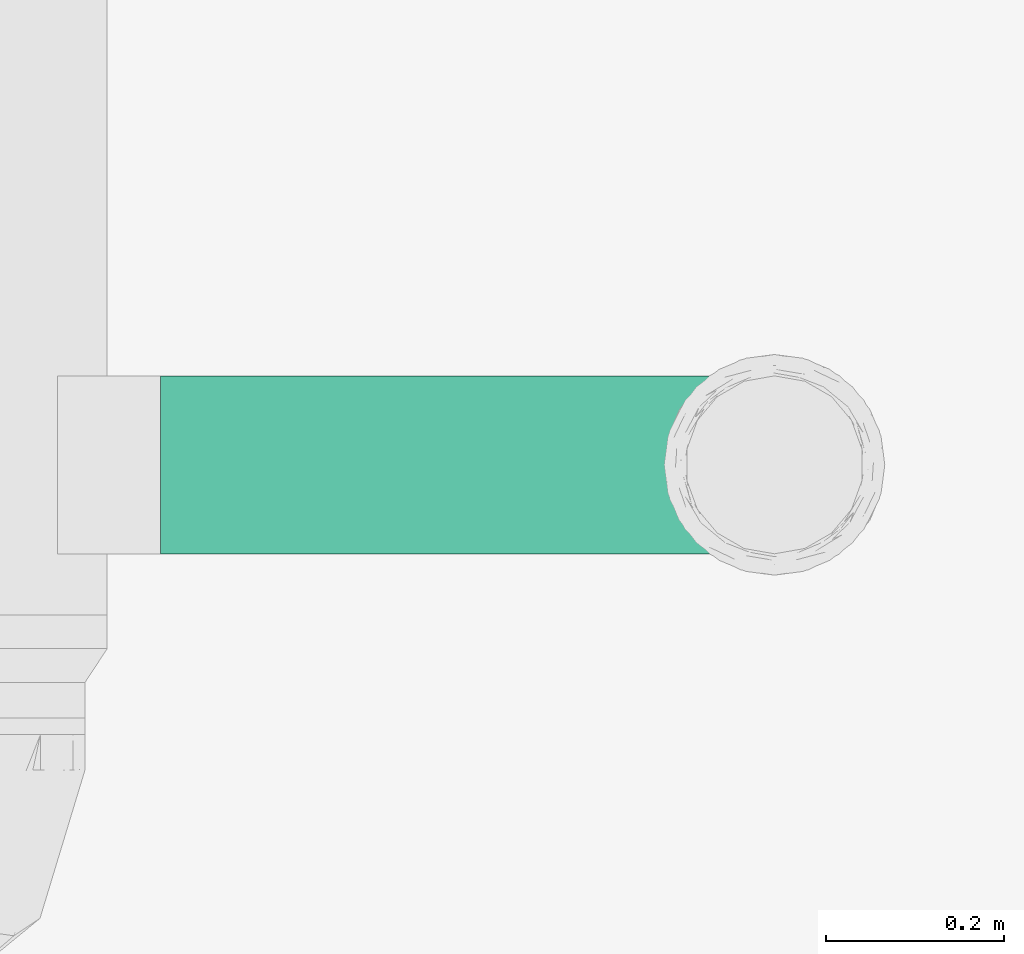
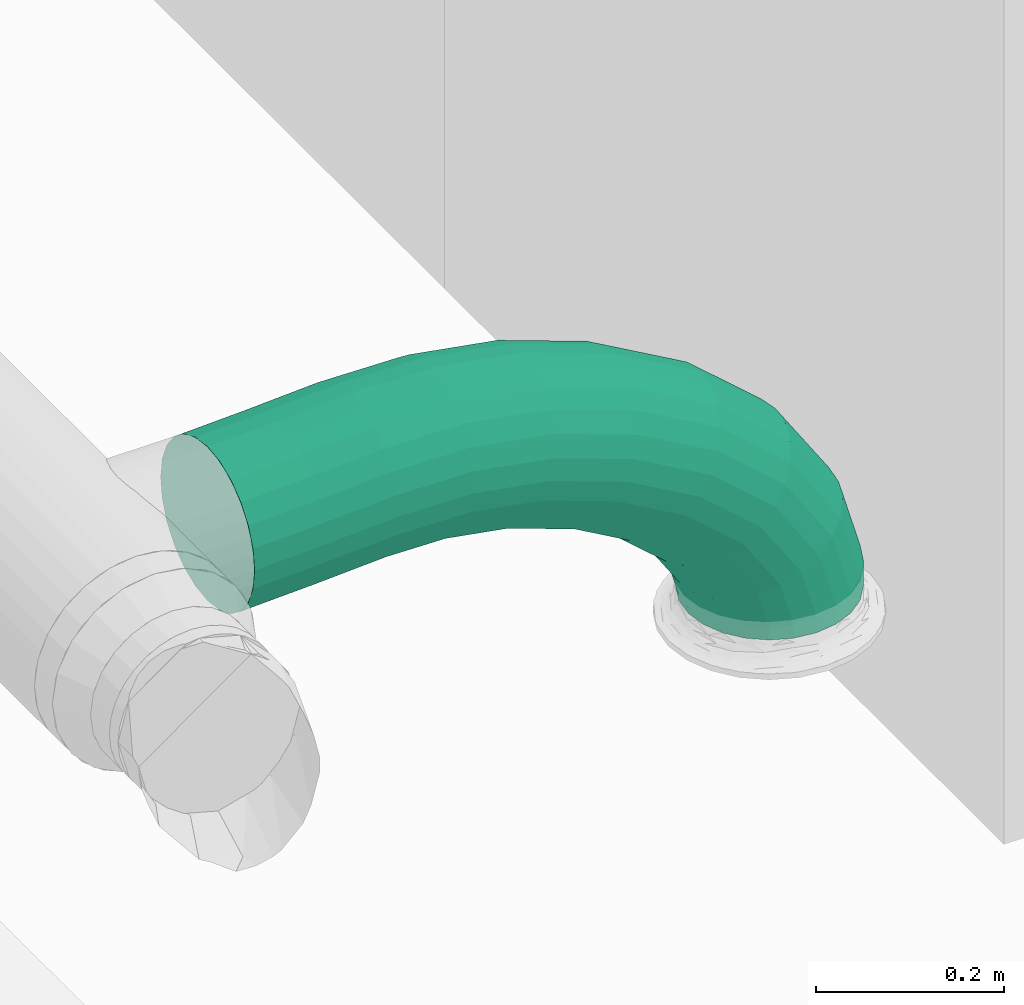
# One storey, part 18 of 31: 1 flow segment.
"""IFC2X3 building model written with IfcOpenShell, lengths in millimetres."""

from ifc_helpers import new_model, entity, si_unit, converted_unit, derived_unit, direction, frame, origin, place, context, subcontext, project, spatial, faceted_brep, type_object, element, save


model = new_model("IFC2X3")

# Units and contexts
model_context = context("Model", 3, precision=0.01, world=origin(), true_north=direction((6.123031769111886e-17, 1.0)))
body_context = subcontext(model_context, "Body", "Model", "MODEL_VIEW")
ifc_project = project(units=[si_unit("LENGTHUNIT", "METRE", prefix="MILLI"), si_unit("AREAUNIT", "SQUARE_METRE"), si_unit("VOLUMEUNIT", "CUBIC_METRE"), converted_unit("PLANEANGLEUNIT", "DEGREE", entity("IfcRatioMeasure", 0.017453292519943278), si_unit("PLANEANGLEUNIT", "RADIAN"), dimensions=[0, 0, 0, 0, 0, 0, 0]), si_unit("MASSUNIT", "GRAM", prefix="KILO"), derived_unit("MASSDENSITYUNIT", [(si_unit("MASSUNIT", "GRAM", prefix="KILO"), 1), (si_unit("LENGTHUNIT", "METRE"), -3)]), derived_unit("MOMENTOFINERTIAUNIT", [(si_unit("LENGTHUNIT", "METRE"), 4)]), si_unit("TIMEUNIT", "SECOND"), si_unit("FREQUENCYUNIT", "HERTZ"), si_unit("THERMODYNAMICTEMPERATUREUNIT", "DEGREE_CELSIUS"), derived_unit("THERMALTRANSMITTANCEUNIT", [(si_unit("MASSUNIT", "GRAM", prefix="KILO"), 1), (si_unit("THERMODYNAMICTEMPERATUREUNIT", "KELVIN"), -1), (si_unit("TIMEUNIT", "SECOND"), -3)]), derived_unit("VOLUMETRICFLOWRATEUNIT", [(si_unit("LENGTHUNIT", "METRE"), 3), (si_unit("TIMEUNIT", "SECOND"), -1)]), derived_unit("MASSFLOWRATEUNIT", [(si_unit("MASSUNIT", "GRAM", prefix="KILO"), 1), (si_unit("TIMEUNIT", "SECOND"), -1)]), derived_unit("ROTATIONALFREQUENCYUNIT", [(si_unit("TIMEUNIT", "SECOND"), -1)]), si_unit("ELECTRICCURRENTUNIT", "AMPERE"), si_unit("ELECTRICVOLTAGEUNIT", "VOLT"), si_unit("POWERUNIT", "WATT"), si_unit("FORCEUNIT", "NEWTON", prefix="KILO"), si_unit("ILLUMINANCEUNIT", "LUX"), si_unit("LUMINOUSFLUXUNIT", "LUMEN"), si_unit("LUMINOUSINTENSITYUNIT", "CANDELA"), derived_unit("USERDEFINED", [(si_unit("MASSUNIT", "GRAM", prefix="KILO"), -1), (si_unit("LENGTHUNIT", "METRE"), -2), (si_unit("TIMEUNIT", "SECOND"), 3), (si_unit("LUMINOUSFLUXUNIT", "LUMEN"), 1)]), derived_unit("SOUNDPOWERUNIT", [(si_unit("MASSUNIT", "GRAM", prefix="KILO"), 1), (si_unit("LENGTHUNIT", "METRE"), 2), (si_unit("TIMEUNIT", "SECOND"), -3)]), derived_unit("SOUNDPRESSUREUNIT", [(si_unit("MASSUNIT", "GRAM", prefix="KILO"), 1), (si_unit("LENGTHUNIT", "METRE"), -1), (si_unit("TIMEUNIT", "SECOND"), -2)]), derived_unit("LINEARVELOCITYUNIT", [(si_unit("LENGTHUNIT", "METRE"), 1), (si_unit("TIMEUNIT", "SECOND"), -1)]), si_unit("PRESSUREUNIT", "PASCAL"), derived_unit("USERDEFINED", [(si_unit("LENGTHUNIT", "METRE"), -2), (si_unit("MASSUNIT", "GRAM", prefix="KILO"), 1), (si_unit("TIMEUNIT", "SECOND"), -2)]), derived_unit("LINEARFORCEUNIT", [(si_unit("MASSUNIT", "GRAM", prefix="KILO"), 1), (si_unit("LENGTHUNIT", "METRE"), 1), (si_unit("TIMEUNIT", "SECOND"), -2), (si_unit("LENGTHUNIT", "METRE"), -1)]), derived_unit("PLANARFORCEUNIT", [(si_unit("MASSUNIT", "GRAM", prefix="KILO"), 1), (si_unit("LENGTHUNIT", "METRE"), 1), (si_unit("TIMEUNIT", "SECOND"), -2), (si_unit("LENGTHUNIT", "METRE"), -2)])], contexts=[model_context])

# Site, building, storey
site_placement = place(None, origin())
site = spatial("IfcSite", under=ifc_project, at=site_placement, Name="Default", CompositionType="ELEMENT")
building_placement = place(site_placement, origin())
building = spatial("IfcBuilding", under=site, at=building_placement, CompositionType="ELEMENT")
storey_placement = place(building_placement, frame((0.0, 0.0, 3880.0)))
storey = spatial("IfcBuildingStorey", under=building, at=storey_placement, Name="Niveau 1", CompositionType="ELEMENT", Elevation=3880.0)

# Flow segment
duct_segment_type = type_object("IfcDuctSegmentType", Name="Gaine flexible circulaire:Souple - Circulaire piquage Aldes", PredefinedType="FLEXIBLESEGMENT")
flow_segment_placement = place(storey_placement, frame((-2010.0, -22768.52175551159, 2827.5000000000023)))
element("IfcFlowSegment", 1, at=flow_segment_placement, inside=storey, type_object=duct_segment_type, Name="Gaine flexible circulaire:Souple - Circulaire piquage Aldes", ObjectType="Gaine flexible circulaire:Souple - Circulaire piquage Aldes", context=body_context, shape_type="Brep", body=[
    faceted_brep([(619.2893218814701, 30.884594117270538, 0.0), (603.3974596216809, 51.59527223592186, 0.0), (593.407417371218, 75.7133677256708, 0.0), (590.0, 101.59527223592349, 0.0), (593.4074173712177, 127.47717674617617, 0.0), (603.3974596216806, 151.5952722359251, 0.0), (619.2893218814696, 172.30595035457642, 0.0), (640.0, 188.1978126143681, 0.0), (664.1180954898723, 198.18785486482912, 0.0), (690.0, 201.5952722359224, 0.0), (715.8819045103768, 198.18785486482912, 0.0), (740.0, 188.1978126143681, 0.0), (760.7106781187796, 172.30595035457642, 0.0), (776.6025403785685, 151.5952722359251, 0.0), (786.5925826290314, 127.47717674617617, 0.0), (790.0, 101.59527223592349, 0.0), (786.5925826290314, 75.7133677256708, 0.0), (776.6025403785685, 51.59527223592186, 0.0), (760.7106781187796, 30.884594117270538, 0.0), (740.0, 14.992731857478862, 0.0), (715.8819045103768, 5.002689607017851, 0.0), (690.0, 1.5952722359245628, 0.0), (664.1180954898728, 5.002689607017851, 0.0), (640.0, 14.992731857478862, 0.0), (790.0, 101.59527223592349, 35.278796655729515), (786.5925826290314, 75.7133677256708, 34.79837086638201), (776.6025403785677, 51.59527223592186, 33.389833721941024), (760.7106781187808, 30.884594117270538, 31.149174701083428), (740.0, 14.992731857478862, 28.229091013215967), (715.8819045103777, 5.002689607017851, 24.828581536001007), (690.0, 1.5952722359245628, 21.179385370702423), (664.1180954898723, 5.002689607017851, 17.53018920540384), (640.0, 14.992731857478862, 14.12967972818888), (619.289321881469, 30.884594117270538, 11.209596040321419), (593.407417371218, 75.7133677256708, 7.560399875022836), (590.0, 101.59527223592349, 7.079974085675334), (603.3974596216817, 51.59527223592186, 8.968937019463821), (603.3974596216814, 151.5952722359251, 8.968937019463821), (619.2893218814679, 172.30595035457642, 11.209596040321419), (593.407417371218, 127.47717674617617, 7.560399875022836), (664.1180954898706, 198.18785486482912, 17.53018920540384), (690.0, 201.5952722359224, 21.179385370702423), (640.0, 188.1978126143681, 14.12967972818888), (715.8819045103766, 198.18785486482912, 24.828581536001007), (740.0, 188.1978126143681, 28.229091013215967), (760.71067811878, 172.30595035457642, 31.149174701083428), (776.6025403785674, 151.5952722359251, 33.389833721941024), (786.5925826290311, 127.47717674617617, 34.79837086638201), (0.0, 198.1878548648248, 296.61809548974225), (0.0, 188.19781261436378, 272.4999999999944), (0.0, 172.3059503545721, 251.7893218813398), (0.0, 151.5952722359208, 235.89745962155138), (0.0, 127.47717674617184, 225.90741737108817), (0.0, 101.59527223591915, 222.49999999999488), (0.0, 75.71336772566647, 225.90741737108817), (0.0, 51.59527223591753, 235.89745962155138), (0.0, 30.884594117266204, 251.7893218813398), (0.0, 14.992731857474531, 272.49999999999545), (0.0, 5.00268960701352, 296.6180954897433), (0.0, 1.5952722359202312, 322.4999999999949), (0.0, 5.00268960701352, 348.3819045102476), (0.0, 14.992731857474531, 372.49999999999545), (0.0, 30.884594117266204, 393.21067811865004), (0.0, 51.59527223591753, 409.10254037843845), (0.0, 75.71336772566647, 419.0925826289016), (0.0, 101.59527223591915, 422.4999999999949), (0.0, 127.47717674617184, 419.0925826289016), (0.0, 151.5952722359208, 409.10254037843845), (0.0, 172.3059503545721, 393.21067811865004), (0.0, 188.19781261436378, 372.49999999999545), (0.0, 198.1878548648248, 348.3819045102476), (0.0, 201.5952722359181, 322.4999999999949), (763.2769525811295, 101.59527223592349, 128.16143674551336), (760.1463399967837, 75.7133677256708, 126.71890663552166), (750.9678483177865, 51.59527223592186, 122.48962234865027), (736.3669765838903, 30.884594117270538, 115.76180261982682), (717.3387500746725, 14.992731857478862, 106.9939372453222), (695.1799109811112, 5.002689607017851, 96.7835417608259), (671.4005475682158, 1.5952722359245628, 85.82643774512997), (647.6211841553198, 5.002689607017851, 74.86933372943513), (625.4623450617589, 14.992731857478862, 64.65893824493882), (606.4341185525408, 30.884594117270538, 55.89107287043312), (591.8332468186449, 51.59527223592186, 49.16325314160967), (582.6547551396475, 75.7133677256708, 44.93396885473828), (579.5241425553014, 101.59527223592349, 43.49143874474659), (582.6547551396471, 127.47717674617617, 44.93396885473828), (591.8332468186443, 151.5952722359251, 49.16325314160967), (606.43411855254, 172.30595035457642, 55.89107287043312), (647.6211841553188, 198.18785486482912, 74.86933372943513), (671.4005475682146, 201.5952722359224, 85.82643774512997), (625.4623450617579, 188.1978126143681, 64.65893824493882), (695.1799109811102, 198.18785486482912, 96.7835417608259), (717.3387500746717, 188.1978126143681, 106.99393724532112), (736.3669765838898, 172.30595035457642, 115.76180261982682), (750.967848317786, 151.5952722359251, 122.48962234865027), (760.1463399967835, 127.47717674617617, 126.71890663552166), (697.1155955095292, 101.59527223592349, 228.39426994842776), (694.5257835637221, 75.7133677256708, 226.13244013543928), (686.9328391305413, 51.59527223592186, 219.5010906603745), (674.854208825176, 30.884594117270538, 208.95213703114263), (659.1130313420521, 14.992731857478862, 195.20447300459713), (640.7820419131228, 5.002689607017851, 179.1949791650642), (621.1104671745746, 1.5952722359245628, 162.0146760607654), (601.4388924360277, 5.002689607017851, 144.83437295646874), (583.1079030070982, 14.992731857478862, 128.82487911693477), (567.366725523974, 30.884594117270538, 115.07721509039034), (555.2880952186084, 51.59527223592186, 104.52826146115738), (547.6951507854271, 75.7133677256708, 97.89691198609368), (545.1053388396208, 101.59527223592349, 95.63508217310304), (547.6951507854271, 127.47717674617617, 97.89691198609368), (555.2880952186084, 151.5952722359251, 104.5282614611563), (567.3667255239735, 172.30595035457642, 115.07721509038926), (601.4388924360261, 198.18785486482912, 144.83437295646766), (621.1104671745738, 201.5952722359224, 162.01467606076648), (583.1079030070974, 188.1978126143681, 128.82487911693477), (640.7820419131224, 198.18785486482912, 179.1949791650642), (659.1130313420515, 188.1978126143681, 195.20447300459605), (674.8542088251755, 172.30595035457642, 208.95213703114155), (686.9328391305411, 151.5952722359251, 219.5010906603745), (694.5257835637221, 127.47717674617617, 226.1324401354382), (605.6289976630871, 101.59527223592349, 308.3797466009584), (603.6446260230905, 75.7133677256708, 305.58858863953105), (597.8267427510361, 51.59527223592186, 297.4053275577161), (588.5718269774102, 30.884594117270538, 284.3876390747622), (576.5105859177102, 14.992731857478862, 267.4226571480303), (562.4649732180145, 5.002689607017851, 247.66651725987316), (547.3921741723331, 1.5952722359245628, 226.46556769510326), (532.3193751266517, 5.002689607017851, 205.26461813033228), (518.2737624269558, 14.992731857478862, 185.50847824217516), (506.2125213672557, 30.884594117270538, 168.5434963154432), (496.9576055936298, 51.59527223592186, 155.5258078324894), (491.1397223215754, 75.7133677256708, 147.34254675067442), (489.15535068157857, 101.59527223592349, 144.55138878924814), (491.1397223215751, 127.47717674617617, 147.34254675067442), (496.9576055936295, 151.5952722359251, 155.5258078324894), (506.2125213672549, 172.30595035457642, 168.5434963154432), (532.3193751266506, 198.18785486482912, 205.26461813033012), (547.3921741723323, 201.5952722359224, 226.46556769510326), (518.2737624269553, 188.1978126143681, 185.50847824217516), (562.4649732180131, 198.18785486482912, 247.66651725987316), (576.5105859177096, 188.1978126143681, 267.4226571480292), (588.57182697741, 172.30595035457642, 284.3876390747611), (597.8267427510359, 151.5952722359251, 297.4053275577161), (603.6446260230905, 127.47717674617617, 305.58858863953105), (500.5749780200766, 101.59527223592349, 368.2019927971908), (499.1415833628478, 75.7133677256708, 365.0970850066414), (494.939082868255, 51.59527223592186, 355.9939559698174), (488.2538700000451, 30.884594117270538, 341.51296888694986), (479.54153096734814, 14.992731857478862, 322.64097909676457), (469.39579727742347, 5.002689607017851, 300.6640815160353), (458.50808391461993, 1.5952722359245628, 277.0799653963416), (447.6203705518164, 5.002689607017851, 253.49584927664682), (437.474636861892, 14.992731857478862, 231.51895169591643), (428.7622978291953, 30.884594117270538, 212.64696190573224), (422.07708496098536, 51.59527223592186, 198.16597482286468), (417.87458446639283, 75.7133677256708, 189.0628457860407), (416.4411898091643, 101.59527223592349, 185.95793799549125), (417.87458446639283, 127.47717674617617, 189.0628457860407), (422.07708496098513, 151.5952722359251, 198.1659748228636), (428.7622978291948, 172.30595035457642, 212.64696190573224), (447.6203705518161, 198.18785486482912, 253.49584927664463), (458.50808391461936, 201.5952722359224, 277.07996539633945), (437.47463686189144, 188.1978126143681, 231.51895169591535), (469.3957972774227, 198.18785486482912, 300.6640815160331), (479.54153096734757, 188.1978126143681, 322.64097909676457), (488.2538700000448, 172.30595035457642, 341.5129688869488), (494.93908286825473, 151.5952722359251, 355.9939559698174), (499.14158336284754, 127.47717674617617, 365.0970850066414), (388.69763410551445, 101.59527223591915, 408.7059029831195), (387.81248853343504, 75.71336772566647, 405.4025078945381), (385.21737302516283, 51.59527223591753, 395.71744354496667), (381.0891404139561, 30.884594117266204, 380.31073106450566), (375.70912293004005, 14.992731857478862, 360.2323124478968), (369.4439598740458, 5.002689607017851, 336.8504987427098), (362.7206117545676, 1.5952722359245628, 311.7587219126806), (355.99726363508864, 5.002689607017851, 286.66694508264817), (349.7321005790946, 14.992731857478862, 263.28513137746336), (344.35208309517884, 30.884594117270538, 243.20671276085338), (340.2238504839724, 51.59527223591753, 227.80000028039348), (337.6287349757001, 75.71336772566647, 218.11493593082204), (336.74358940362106, 101.59527223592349, 214.81154084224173), (337.6287349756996, 127.47717674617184, 218.11493593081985), (340.22385048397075, 151.5952722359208, 227.80000028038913), (344.35208309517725, 172.3059503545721, 243.20671276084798), (355.99726363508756, 198.18785486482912, 286.66694508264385), (362.7206117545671, 201.5952722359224, 311.7587219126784), (349.73210057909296, 188.19781261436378, 263.2851313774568), (369.4439598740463, 198.18785486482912, 336.850498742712), (375.7091229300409, 188.1978126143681, 360.23231244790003), (381.0891404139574, 172.30595035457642, 380.31073106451), (385.2173730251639, 151.5952722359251, 395.7174435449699), (387.81248853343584, 127.47717674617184, 405.40250789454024), (278.03602553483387, 101.59527223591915, 428.4135647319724), (277.6965611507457, 75.71336772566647, 425.01298959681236), (276.70130193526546, 51.59527223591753, 415.0430077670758), (275.1180731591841, 30.884594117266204, 399.1830570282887), (273.054769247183, 14.992731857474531, 378.51396681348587), (270.6520009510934, 5.00268960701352, 354.4443014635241), (268.07351295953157, 1.5952722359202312, 328.6143688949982), (265.49502496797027, 5.00268960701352, 302.7844363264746), (263.0922566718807, 14.992731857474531, 278.7147709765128), (261.028952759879, 30.884594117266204, 258.0456807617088), (259.445723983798, 51.59527223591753, 242.18573002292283), (258.4504647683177, 75.71336772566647, 232.21574819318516), (258.11100038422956, 101.59527223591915, 228.81517305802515), (258.4504647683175, 127.47717674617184, 232.21574819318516), (259.445723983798, 151.5952722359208, 242.18573002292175), (261.028952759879, 172.3059503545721, 258.0456807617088), (265.49502496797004, 198.1878548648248, 302.7844363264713), (268.07351295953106, 201.5952722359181, 328.61436889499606), (263.0922566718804, 188.19781261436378, 278.7147709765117), (270.6520009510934, 198.1878548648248, 354.444301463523), (273.0547692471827, 188.19781261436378, 378.5139668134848), (275.1180731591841, 172.3059503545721, 399.18305702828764), (276.70130193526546, 151.5952722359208, 415.0430077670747), (277.6965611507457, 127.47717674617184, 425.01298959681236), (175.98151109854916, 101.59527223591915, 430.7357267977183), (176.03438868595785, 75.71336772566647, 427.326224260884), (176.18941792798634, 51.59527223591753, 417.33006861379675), (176.43603383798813, 30.884594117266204, 401.4284813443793), (176.75742994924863, 14.992731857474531, 380.7051293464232), (177.13170364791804, 5.00268960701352, 356.5722748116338), (177.53334879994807, 1.5952722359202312, 330.67453189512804), (177.93499395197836, 5.00268960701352, 304.7767889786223), (178.3092676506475, 14.992731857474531, 280.643934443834), (178.630663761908, 30.884594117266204, 259.92058244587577), (178.8772796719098, 51.59527223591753, 244.01899517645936), (179.0323089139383, 75.71336772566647, 234.02283952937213), (179.08518650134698, 101.59527223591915, 230.61333699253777), (179.0323089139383, 127.47717674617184, 234.02283952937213), (178.8772796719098, 151.5952722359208, 244.01899517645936), (178.630663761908, 172.3059503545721, 259.92058244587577), (177.93499395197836, 198.1878548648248, 304.7767889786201), (177.53334879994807, 201.5952722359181, 330.6745318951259), (178.3092676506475, 188.19781261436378, 280.6439344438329), (177.13170364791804, 198.1878548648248, 356.5722748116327), (176.75742994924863, 188.19781261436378, 380.7051293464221), (176.43603383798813, 172.3059503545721, 401.4284813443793), (176.18941792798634, 151.5952722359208, 417.3300686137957), (176.03438868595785, 127.47717674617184, 427.326224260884), (84.43530862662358, 75.71336772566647, 422.39660347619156), (84.90354874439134, 51.59527223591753, 412.4173040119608), (84.27560064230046, 101.59527223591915, 425.8003566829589), (85.64841120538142, 30.884594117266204, 396.54253105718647), (87.74956650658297, 5.00268960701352, 351.7619640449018), (88.9626690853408, 1.5952722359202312, 325.9078916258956), (86.61913486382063, 14.992731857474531, 375.8541241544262), (90.1757716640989, 5.00268960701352, 300.0538192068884), (91.30620330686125, 14.992731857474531, 275.961659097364), (92.27692696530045, 30.884594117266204, 255.27325219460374), (93.02178942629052, 51.59527223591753, 239.3984792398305), (93.49002954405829, 75.71336772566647, 229.41917977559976), (93.64973752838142, 101.59527223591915, 226.01542656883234), (93.49002954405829, 127.47717674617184, 229.41917977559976), (93.02178942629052, 151.5952722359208, 239.3984792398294), (92.27692696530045, 172.3059503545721, 255.27325219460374), (91.30620330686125, 188.19781261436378, 275.9616590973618), (90.1757716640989, 198.1878548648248, 300.05381920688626), (88.9626690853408, 201.5952722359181, 325.9078916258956), (87.74956650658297, 198.1878548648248, 351.7619640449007), (86.61913486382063, 188.19781261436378, 375.8541241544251), (85.64841120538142, 172.3059503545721, 396.54253105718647), (84.90354874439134, 151.5952722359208, 412.4173040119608), (84.43530862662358, 127.47717674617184, 422.39660347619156), (1.8953946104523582, 75.71336772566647, 419.09258262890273), (2.09526213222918, 51.59527223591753, 409.1025403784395), (1.8272235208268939, 101.59527223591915, 422.499999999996), (2.4132054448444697, 30.884594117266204, 393.2106781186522), (3.3100801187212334, 5.00268960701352, 348.38190451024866), (3.827890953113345, 1.5952722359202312, 322.49999999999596), (2.8275572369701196, 14.992731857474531, 372.49999999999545), (4.345701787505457, 5.00268960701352, 296.6180954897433), (4.828224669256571, 14.992731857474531, 272.49999999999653), (5.24257646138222, 30.884594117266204, 251.7893218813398), (5.560519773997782, 51.59527223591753, 235.89745962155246), (5.760387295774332, 75.71336772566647, 225.90741737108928), (5.828558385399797, 101.59527223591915, 222.499999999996), (5.760387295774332, 127.47717674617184, 225.90741737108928), (5.560519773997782, 151.5952722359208, 235.89745962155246), (5.24257646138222, 172.3059503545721, 251.7893218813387), (4.828224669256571, 188.19781261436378, 272.4999999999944), (4.345701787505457, 198.1878548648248, 296.61809548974), (3.827890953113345, 201.5952722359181, 322.49999999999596), (3.3100801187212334, 198.1878548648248, 348.3819045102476), (2.8275572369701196, 188.19781261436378, 372.4999999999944), (2.4132054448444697, 172.3059503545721, 393.2106781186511), (2.09526213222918, 151.5952722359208, 409.10254037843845), (1.8953946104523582, 127.47717674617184, 419.09258262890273)], [[[0, 1, 2, 3, 4, 5, 6, 7, 8, 9, 10, 11, 12, 13, 14, 15, 16, 17, 18, 19, 20, 21, 22, 23]], [[15, 24, 25, 16]], [[16, 25, 26, 17]], [[17, 26, 27, 18]], [[19, 28, 29, 20]], [[20, 29, 30, 21]], [[18, 27, 28, 19]], [[31, 32, 23, 22]], [[30, 31, 22, 21]], [[23, 32, 33, 0]], [[34, 35, 3, 2]], [[36, 34, 2, 1]], [[0, 33, 36, 1]], [[5, 37, 38, 6]], [[39, 37, 5, 4]], [[3, 35, 39, 4]], [[40, 41, 9, 8]], [[42, 40, 8, 7]], [[38, 42, 7, 6]], [[11, 10, 43, 44]], [[12, 11, 44, 45]], [[9, 41, 43, 10]], [[14, 13, 46, 47]], [[15, 14, 47, 24]], [[45, 46, 13, 12]], [[48, 49, 50, 51, 52, 53, 54, 55, 56, 57, 58, 59, 60, 61, 62, 63, 64, 65, 66, 67, 68, 69, 70, 71]], [[24, 72, 73, 25]], [[25, 73, 74, 26]], [[26, 74, 75, 27]], [[27, 75, 76, 28]], [[28, 76, 77, 29]], [[78, 30, 29, 77]], [[79, 80, 32, 31]], [[78, 79, 31, 30]], [[81, 33, 32, 80]], [[82, 83, 34, 36]], [[82, 36, 33, 81]], [[84, 35, 34, 83]], [[85, 86, 37, 39]], [[84, 85, 39, 35]], [[38, 37, 86, 87]], [[88, 89, 41, 40]], [[90, 88, 40, 42]], [[87, 90, 42, 38]], [[43, 41, 89, 91]], [[44, 43, 91, 92]], [[45, 44, 92, 93]], [[47, 46, 94, 95]], [[24, 47, 95, 72]], [[93, 94, 46, 45]], [[73, 72, 96, 97]], [[74, 73, 97, 98]], [[98, 99, 75, 74]], [[76, 75, 99, 100]], [[77, 76, 100, 101]], [[78, 77, 101, 102]], [[103, 104, 80, 79]], [[102, 103, 79, 78]], [[81, 80, 104, 105]], [[106, 107, 83, 82]], [[105, 106, 82, 81]], [[84, 83, 107, 108]], [[109, 110, 86, 85]], [[108, 109, 85, 84]], [[111, 87, 86, 110]], [[112, 113, 89, 88]], [[114, 112, 88, 90]], [[114, 90, 87, 111]], [[89, 113, 115, 91]], [[91, 115, 116, 92]], [[117, 93, 92, 116]], [[94, 118, 119, 95]], [[95, 119, 96, 72]], [[118, 94, 93, 117]], [[97, 96, 120, 121]], [[98, 97, 121, 122]], [[122, 123, 99, 98]], [[100, 99, 123, 124]], [[101, 100, 124, 125]], [[102, 101, 125, 126]], [[127, 128, 104, 103]], [[126, 127, 103, 102]], [[105, 104, 128, 129]], [[130, 131, 107, 106]], [[129, 130, 106, 105]], [[108, 107, 131, 132]], [[133, 134, 110, 109]], [[132, 133, 109, 108]], [[135, 111, 110, 134]], [[136, 137, 113, 112]], [[138, 136, 112, 114]], [[138, 114, 111, 135]], [[113, 137, 139, 115]], [[115, 139, 140, 116]], [[141, 117, 116, 140]], [[118, 142, 143, 119]], [[119, 143, 120, 96]], [[142, 118, 117, 141]], [[121, 120, 144, 145]], [[122, 121, 145, 146]], [[146, 147, 123, 122]], [[124, 123, 147, 148]], [[125, 124, 148, 149]], [[126, 125, 149, 150]], [[151, 152, 128, 127]], [[150, 151, 127, 126]], [[129, 128, 152, 153]], [[154, 155, 131, 130]], [[153, 154, 130, 129]], [[132, 131, 155, 156]], [[157, 158, 134, 133]], [[156, 157, 133, 132]], [[159, 135, 134, 158]], [[160, 161, 137, 136]], [[162, 160, 136, 138]], [[162, 138, 135, 159]], [[137, 161, 163, 139]], [[139, 163, 164, 140]], [[165, 141, 140, 164]], [[142, 166, 167, 143]], [[143, 167, 144, 120]], [[166, 142, 141, 165]], [[144, 168, 169, 145]], [[145, 169, 170, 146]], [[146, 170, 171, 147]], [[147, 171, 172, 148]], [[148, 172, 173, 149]], [[174, 150, 149, 173]], [[175, 176, 152, 151]], [[174, 175, 151, 150]], [[177, 153, 152, 176]], [[178, 179, 155, 154]], [[178, 154, 153, 177]], [[180, 156, 155, 179]], [[181, 182, 158, 157]], [[180, 181, 157, 156]], [[159, 158, 182, 183]], [[184, 185, 161, 160]], [[186, 184, 160, 162]], [[183, 186, 162, 159]], [[163, 161, 185, 187]], [[164, 163, 187, 188]], [[165, 164, 188, 189]], [[167, 166, 190, 191]], [[144, 167, 191, 168]], [[189, 190, 166, 165]], [[169, 168, 192, 193]], [[170, 169, 193, 194]], [[194, 195, 171, 170]], [[172, 171, 195, 196]], [[173, 172, 196, 197]], [[174, 173, 197, 198]], [[199, 200, 176, 175]], [[198, 199, 175, 174]], [[177, 176, 200, 201]], [[202, 203, 179, 178]], [[201, 202, 178, 177]], [[180, 179, 203, 204]], [[205, 206, 182, 181]], [[204, 205, 181, 180]], [[207, 183, 182, 206]], [[208, 209, 185, 184]], [[210, 208, 184, 186]], [[210, 186, 183, 207]], [[185, 209, 211, 187]], [[187, 211, 212, 188]], [[213, 189, 188, 212]], [[190, 214, 215, 191]], [[191, 215, 192, 168]], [[214, 190, 189, 213]], [[193, 192, 216, 217]], [[194, 193, 217, 218]], [[218, 219, 195, 194]], [[196, 195, 219, 220]], [[197, 196, 220, 221]], [[198, 197, 221, 222]], [[223, 224, 200, 199]], [[222, 223, 199, 198]], [[201, 200, 224, 225]], [[226, 227, 203, 202]], [[225, 226, 202, 201]], [[204, 203, 227, 228]], [[229, 230, 206, 205]], [[228, 229, 205, 204]], [[231, 207, 206, 230]], [[232, 233, 209, 208]], [[234, 232, 208, 210]], [[234, 210, 207, 231]], [[209, 233, 235, 211]], [[211, 235, 236, 212]], [[237, 213, 212, 236]], [[214, 238, 239, 215]], [[215, 239, 216, 192]], [[238, 214, 213, 237]], [[240, 241, 218, 217]], [[242, 240, 217, 216]], [[241, 243, 219, 218]], [[244, 245, 222, 221]], [[246, 244, 221, 220]], [[243, 246, 220, 219]], [[223, 222, 245, 247]], [[224, 223, 247, 248]], [[225, 224, 248, 249]], [[227, 226, 250, 251]], [[228, 227, 251, 252]], [[249, 250, 226, 225]], [[228, 252, 253, 229]], [[229, 253, 254, 230]], [[255, 231, 230, 254]], [[231, 255, 256, 234]], [[234, 256, 257, 232]], [[258, 233, 232, 257]], [[259, 260, 236, 235]], [[258, 259, 235, 233]], [[261, 237, 236, 260]], [[262, 263, 239, 238]], [[262, 238, 237, 261]], [[242, 216, 239, 263]], [[264, 265, 241, 240]], [[266, 264, 240, 242]], [[243, 241, 265, 267]], [[268, 269, 245, 244]], [[270, 268, 244, 246]], [[267, 270, 246, 243]], [[247, 245, 269, 271]], [[248, 247, 271, 272]], [[249, 248, 272, 273]], [[251, 250, 274, 275]], [[252, 251, 275, 276]], [[273, 274, 250, 249]], [[252, 276, 277, 253]], [[253, 277, 278, 254]], [[254, 278, 279, 255]], [[255, 279, 280, 256]], [[256, 280, 281, 257]], [[282, 258, 257, 281]], [[283, 284, 260, 259]], [[282, 283, 259, 258]], [[285, 261, 260, 284]], [[286, 287, 263, 262]], [[286, 262, 261, 285]], [[266, 242, 263, 287]], [[266, 65, 64, 264]], [[264, 64, 63, 265]], [[265, 63, 62, 267]], [[60, 59, 269, 268]], [[61, 60, 268, 270]], [[270, 267, 62, 61]], [[269, 59, 58, 271]], [[271, 58, 57, 272]], [[272, 57, 56, 273]], [[274, 55, 54, 275]], [[275, 54, 53, 276]], [[273, 56, 55, 274]], [[277, 276, 53, 52]], [[278, 277, 52, 51]], [[279, 278, 51, 50]], [[281, 280, 49, 48]], [[282, 281, 48, 71]], [[50, 49, 280, 279]], [[283, 282, 71, 70]], [[284, 283, 70, 69]], [[285, 284, 69, 68]], [[287, 286, 67, 66]], [[266, 287, 66, 65]], [[285, 68, 67, 286]]]),
])

save(model, "model.ifc")
